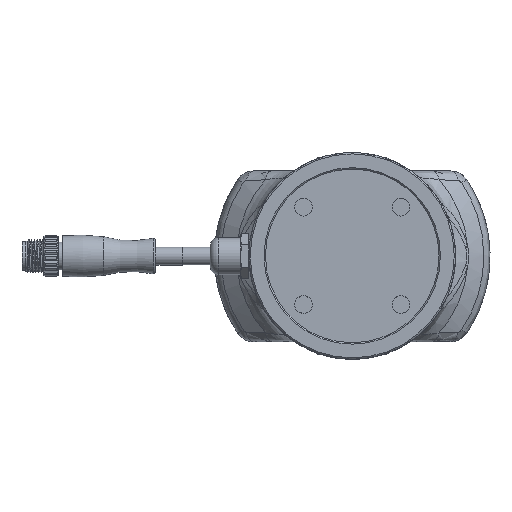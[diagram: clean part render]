
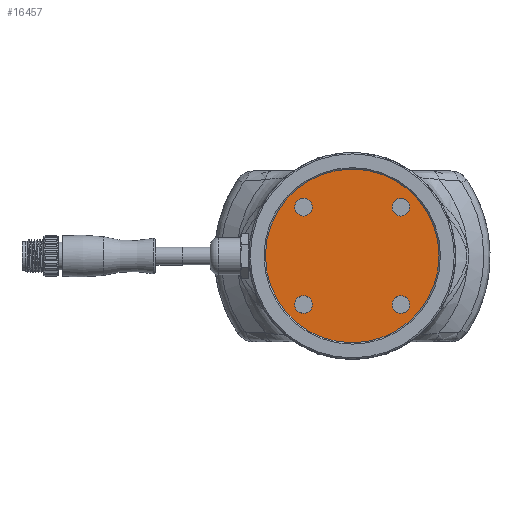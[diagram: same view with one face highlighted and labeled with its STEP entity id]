
A CAD part, top view. The second image highlights one B-rep face of the part: STEP entity #16457.
In plain terms, the highlighted planar face has unit normal (0, 0, 1) as drawn and (0, 0, -1) by its records, which use the part's own axes.
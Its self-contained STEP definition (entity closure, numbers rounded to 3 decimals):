
#912 = CARTESIAN_POINT ( 'NONE',  ( -17.678, 17.678, 3. ) ) ;
#1464 = DIRECTION ( 'NONE',  ( -1., 0., 0. ) ) ;
#1694 = CARTESIAN_POINT ( 'NONE',  ( -17.678, -17.678, 3. ) ) ;
#2785 = VERTEX_POINT ( 'NONE', #26438 ) ;
#4339 = FACE_BOUND ( 'NONE', #6725, .T. ) ;
#4923 = ORIENTED_EDGE ( 'NONE', *, *, #29511, .F. ) ;
#5127 = AXIS2_PLACEMENT_3D ( 'NONE', #1694, #37471, #1464 ) ;
#6725 = EDGE_LOOP ( 'NONE', ( #20630 ) ) ;
#7836 = FACE_BOUND ( 'NONE', #17208, .T. ) ;
#8618 = CARTESIAN_POINT ( 'NONE',  ( 14.478, 17.678, 3. ) ) ;
#9530 = AXIS2_PLACEMENT_3D ( 'NONE', #41030, #23383, #13598 ) ;
#10664 = FACE_BOUND ( 'NONE', #37235, .T. ) ;
#12053 = AXIS2_PLACEMENT_3D ( 'NONE', #13254, #23645, #36213 ) ;
#13254 = CARTESIAN_POINT ( 'NONE',  ( 17.678, -17.678, 3. ) ) ;
#13598 = DIRECTION ( 'NONE',  ( -1., 0., 0. ) ) ;
#14763 = FACE_OUTER_BOUND ( 'NONE', #28314, .T. ) ;
#14818 = DIRECTION ( 'NONE',  ( 0., 0., -1. ) ) ;
#15350 = EDGE_LOOP ( 'NONE', ( #37809 ) ) ;
#16076 = EDGE_CURVE ( 'NONE', #2785, #2785, #18283, .T. ) ;
#16188 = EDGE_CURVE ( 'NONE', #32706, #32706, #23835, .T. ) ;
#16206 = AXIS2_PLACEMENT_3D ( 'NONE', #24560, #21501, #17354 ) ;
#16457 = ADVANCED_FACE ( 'NONE', ( #7836, #10664, #4339, #31042, #14763 ), #34509, .T. ) ;
#17055 = VERTEX_POINT ( 'NONE', #20109 ) ;
#17208 = EDGE_LOOP ( 'NONE', ( #20830 ) ) ;
#17354 = DIRECTION ( 'NONE',  ( -1., 0., 0. ) ) ;
#18031 = CARTESIAN_POINT ( 'NONE',  ( 0., 0., 3. ) ) ;
#18283 = CIRCLE ( 'NONE', #12053, 3.2 ) ;
#19155 = AXIS2_PLACEMENT_3D ( 'NONE', #18031, #34319, #34965 ) ;
#20109 = CARTESIAN_POINT ( 'NONE',  ( -31.5, 0., 3. ) ) ;
#20630 = ORIENTED_EDGE ( 'NONE', *, *, #16076, .F. ) ;
#20830 = ORIENTED_EDGE ( 'NONE', *, *, #34534, .F. ) ;
#20897 = DIRECTION ( 'NONE',  ( -1., 0., 0. ) ) ;
#21501 = DIRECTION ( 'NONE',  ( 0., 0., -1. ) ) ;
#23383 = DIRECTION ( 'NONE',  ( 0., 0., -1. ) ) ;
#23645 = DIRECTION ( 'NONE',  ( 0., 0., -1. ) ) ;
#23690 = EDGE_CURVE ( 'NONE', #17055, #17055, #33649, .T. ) ;
#23835 = CIRCLE ( 'NONE', #5127, 3.2 ) ;
#24560 = CARTESIAN_POINT ( 'NONE',  ( 0., 0., 3. ) ) ;
#26438 = CARTESIAN_POINT ( 'NONE',  ( 14.478, -17.678, 3. ) ) ;
#28314 = EDGE_LOOP ( 'NONE', ( #34501 ) ) ;
#28773 = AXIS2_PLACEMENT_3D ( 'NONE', #912, #14818, #20897 ) ;
#29511 = EDGE_CURVE ( 'NONE', #33334, #33334, #35138, .T. ) ;
#31042 = FACE_BOUND ( 'NONE', #15350, .T. ) ;
#32706 = VERTEX_POINT ( 'NONE', #42866 ) ;
#33334 = VERTEX_POINT ( 'NONE', #8618 ) ;
#33649 = CIRCLE ( 'NONE', #19155, 31.5 ) ;
#34319 = DIRECTION ( 'NONE',  ( 0., 0., -1. ) ) ;
#34501 = ORIENTED_EDGE ( 'NONE', *, *, #23690, .T. ) ;
#34509 = PLANE ( 'NONE',  #16206 ) ;
#34534 = EDGE_CURVE ( 'NONE', #38075, #38075, #37727, .T. ) ;
#34965 = DIRECTION ( 'NONE',  ( -1., 0., 0. ) ) ;
#35057 = CARTESIAN_POINT ( 'NONE',  ( -20.878, 17.678, 3. ) ) ;
#35138 = CIRCLE ( 'NONE', #9530, 3.2 ) ;
#36213 = DIRECTION ( 'NONE',  ( -1., 0., 0. ) ) ;
#37235 = EDGE_LOOP ( 'NONE', ( #4923 ) ) ;
#37471 = DIRECTION ( 'NONE',  ( 0., 0., -1. ) ) ;
#37727 = CIRCLE ( 'NONE', #28773, 3.2 ) ;
#37809 = ORIENTED_EDGE ( 'NONE', *, *, #16188, .F. ) ;
#38075 = VERTEX_POINT ( 'NONE', #35057 ) ;
#41030 = CARTESIAN_POINT ( 'NONE',  ( 17.678, 17.678, 3. ) ) ;
#42866 = CARTESIAN_POINT ( 'NONE',  ( -20.878, -17.678, 3. ) ) ;
